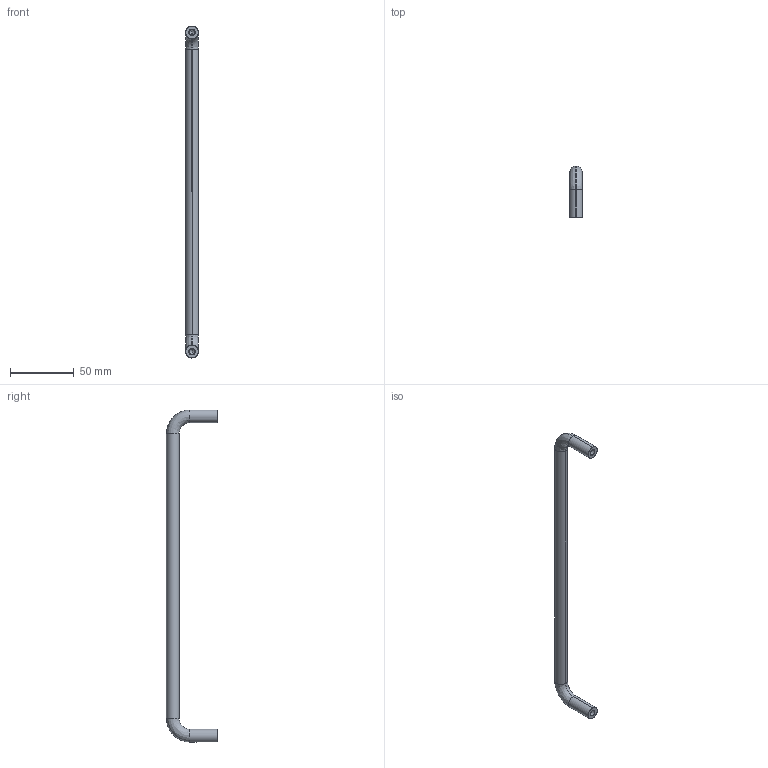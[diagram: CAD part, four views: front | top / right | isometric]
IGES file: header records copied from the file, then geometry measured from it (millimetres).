
Start section: SolidWorks IGES file using analytic representation for surfaces
Global section: file name: C:\Users\IanO\Desktop\Temp File\Process pending\79840_v2\79840_v2_20171115_IGES\79840.W0025.igs; native system: SolidWorks 2017; preprocessor: SolidWorks 2017; author: IanO; date: 171115.103745; units: millimetre
Bounding box: 10 x 40 x 260 mm (x, y, z)
Surface area: 10204.1 mm2 (no closed solid volume)
Topology: 0 solids, 0 shells, 26 faces, 344 edges, 340 vertices
Faces by surface type: revolution 18, bspline 8
